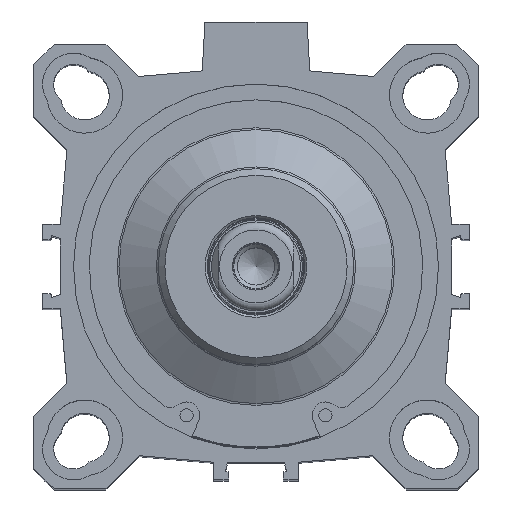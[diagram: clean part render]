
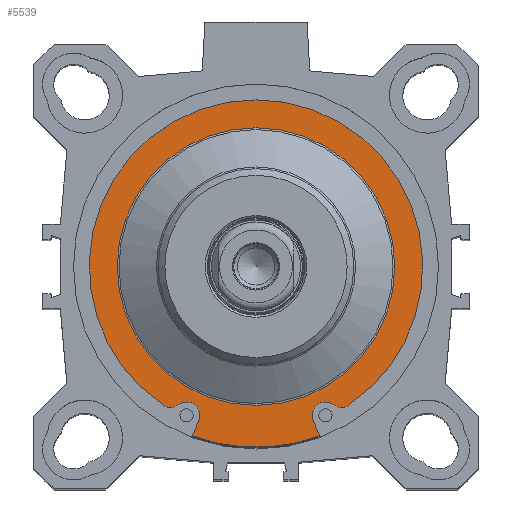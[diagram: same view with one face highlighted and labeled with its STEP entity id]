
A CAD part, top view. The second image highlights one B-rep face of the part: STEP entity #5539.
In plain terms, the highlighted planar face has unit normal (0, 0, 1).
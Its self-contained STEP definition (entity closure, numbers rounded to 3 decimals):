
#170=PLANE('',#5972);
#444=LINE('',#8346,#714);
#445=LINE('',#8351,#715);
#714=VECTOR('',#7050,1000.);
#715=VECTOR('',#7053,1000.);
#1580=ORIENTED_EDGE('',*,*,#2177,.F.);
#1581=ORIENTED_EDGE('',*,*,#2180,.T.);
#1582=ORIENTED_EDGE('',*,*,#2181,.F.);
#1583=ORIENTED_EDGE('',*,*,#2182,.T.);
#1584=ORIENTED_EDGE('',*,*,#2183,.T.);
#1585=ORIENTED_EDGE('',*,*,#2184,.T.);
#1586=ORIENTED_EDGE('',*,*,#2185,.T.);
#1587=ORIENTED_EDGE('',*,*,#2186,.T.);
#1588=ORIENTED_EDGE('',*,*,#2187,.T.);
#2177=EDGE_CURVE('',#2564,#2564,#2798,.T.);
#2180=EDGE_CURVE('',#2567,#2568,#444,.T.);
#2181=EDGE_CURVE('',#2569,#2568,#2801,.T.);
#2182=EDGE_CURVE('',#2569,#2570,#445,.T.);
#2183=EDGE_CURVE('',#2570,#2571,#2802,.T.);
#2184=EDGE_CURVE('',#2571,#2572,#2803,.T.);
#2185=EDGE_CURVE('',#2572,#2573,#2804,.T.);
#2186=EDGE_CURVE('',#2573,#2574,#2805,.T.);
#2187=EDGE_CURVE('',#2574,#2567,#2806,.T.);
#2564=VERTEX_POINT('',#8339);
#2567=VERTEX_POINT('',#8347);
#2568=VERTEX_POINT('',#8348);
#2569=VERTEX_POINT('',#8350);
#2570=VERTEX_POINT('',#8352);
#2571=VERTEX_POINT('',#8354);
#2572=VERTEX_POINT('',#8356);
#2573=VERTEX_POINT('',#8358);
#2574=VERTEX_POINT('',#8360);
#2798=CIRCLE('',#5968,31.214);
#2801=CIRCLE('',#5973,40.65);
#2802=CIRCLE('',#5974,3.);
#2803=CIRCLE('',#5975,3.);
#2804=CIRCLE('',#5976,37.5);
#2805=CIRCLE('',#5977,3.);
#2806=CIRCLE('',#5978,3.);
#3119=EDGE_LOOP('',(#1580));
#3120=EDGE_LOOP('',(#1581,#1582,#1583,#1584,#1585,#1586,#1587,#1588));
#3470=FACE_BOUND('',#3119,.T.);
#3471=FACE_BOUND('',#3120,.T.);
#5539=ADVANCED_FACE('',(#3470,#3471),#170,.T.);
#5968=AXIS2_PLACEMENT_3D('',#8338,#7040,#7041);
#5972=AXIS2_PLACEMENT_3D('',#8345,#7048,#7049);
#5973=AXIS2_PLACEMENT_3D('',#8349,#7051,#7052);
#5974=AXIS2_PLACEMENT_3D('',#8353,#7054,#7055);
#5975=AXIS2_PLACEMENT_3D('',#8355,#7056,#7057);
#5976=AXIS2_PLACEMENT_3D('',#8357,#7058,#7059);
#5977=AXIS2_PLACEMENT_3D('',#8359,#7060,#7061);
#5978=AXIS2_PLACEMENT_3D('',#8361,#7062,#7063);
#7040=DIRECTION('',(0.,0.,1.));
#7041=DIRECTION('',(1.,0.,0.));
#7048=DIRECTION('',(0.,0.,1.));
#7049=DIRECTION('',(1.,0.,0.));
#7050=DIRECTION('',(-0.405,-0.914,0.));
#7051=DIRECTION('',(0.,0.,-1.));
#7052=DIRECTION('',(-1.,0.,0.));
#7053=DIRECTION('',(-0.405,0.914,0.));
#7054=DIRECTION('',(0.,0.,-1.));
#7055=DIRECTION('',(0.602,0.799,0.));
#7056=DIRECTION('',(0.,0.,1.));
#7057=DIRECTION('',(0.602,0.799,0.));
#7058=DIRECTION('',(0.,0.,1.));
#7059=DIRECTION('',(-0.557,0.831,0.));
#7060=DIRECTION('',(0.,0.,1.));
#7061=DIRECTION('',(0.557,0.831,0.));
#7062=DIRECTION('',(0.,0.,-1.));
#7063=DIRECTION('',(0.914,-0.405,0.));
#8338=CARTESIAN_POINT('',(0.,0.,89.65));
#8339=CARTESIAN_POINT('',(31.214,0.,89.65));
#8345=CARTESIAN_POINT('',(36.032,0.,89.65));
#8346=CARTESIAN_POINT('',(-12.856,-34.664,89.65));
#8347=CARTESIAN_POINT('',(-12.856,-34.664,89.65));
#8348=CARTESIAN_POINT('',(-14.349,-38.033,89.65));
#8349=CARTESIAN_POINT('',(0.,0.,89.65));
#8350=CARTESIAN_POINT('',(14.349,-38.033,89.65));
#8351=CARTESIAN_POINT('',(14.349,-38.033,89.65));
#8352=CARTESIAN_POINT('',(12.856,-34.664,89.65));
#8353=CARTESIAN_POINT('',(15.599,-33.449,89.65));
#8354=CARTESIAN_POINT('',(17.404,-31.053,89.65));
#8355=CARTESIAN_POINT('',(19.21,-28.657,89.65));
#8356=CARTESIAN_POINT('',(20.88,-31.149,89.65));
#8357=CARTESIAN_POINT('',(0.,0.,89.65));
#8358=CARTESIAN_POINT('',(-20.88,-31.149,89.65));
#8359=CARTESIAN_POINT('',(-19.21,-28.657,89.65));
#8360=CARTESIAN_POINT('',(-17.404,-31.053,89.65));
#8361=CARTESIAN_POINT('',(-15.599,-33.449,89.65));
